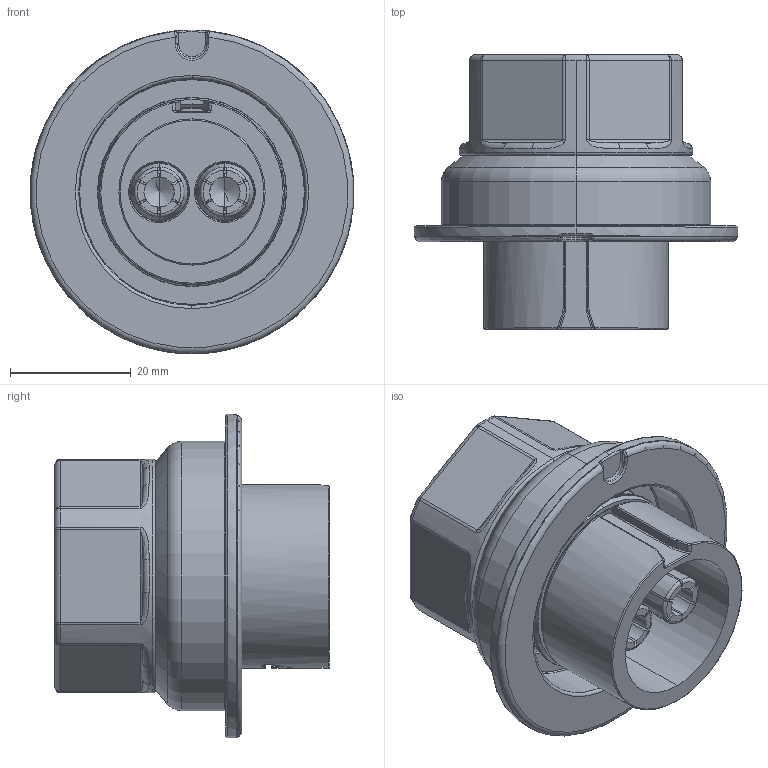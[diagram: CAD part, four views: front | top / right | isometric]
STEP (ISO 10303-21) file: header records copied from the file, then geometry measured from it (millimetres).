
FILE_DESCRIPTION((''),'2;1');
FILE_NAME('LCN-EC8X2-PMM_ASM','2025-06-27T12:56:07',('Neil'),(''),'CREO PARAMETRIC BY PTC INC, 2023134','CREO PARAMETRIC BY PTC INC, 2023134','');
FILE_SCHEMA(('AUTOMOTIVE_DESIGN { 1 0 10303 214 1 1 1 1 }'));
Length unit declared in the file: millimetre
Products named in the file (1): LCN-EC8X2-PMM_ASM
Bounding box: 53.6 x 45.45 x 53.6 mm (x, y, z)
Surface area: 16413.3 mm2 (no closed solid volume)
Topology: 0 solids, 17 shells, 271 faces, 787 edges, 510 vertices
Faces by surface type: cylinder 74, plane 51, torus 50, cone 43, bspline 41, sphere 12
Entity records: 17971 total; most frequent: CARTESIAN_POINT 9252, DIRECTION 1479, ORIENTED_EDGE 1286, EDGE_CURVE 779, AXIS2_PLACEMENT_3D 622, VERTEX_POINT 510, CIRCLE 391, EDGE_LOOP 288
